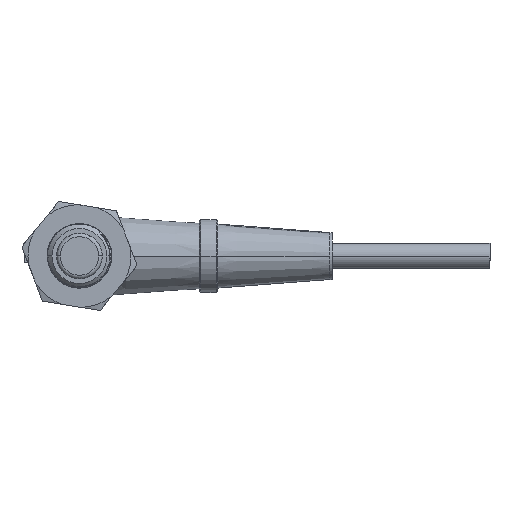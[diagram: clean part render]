
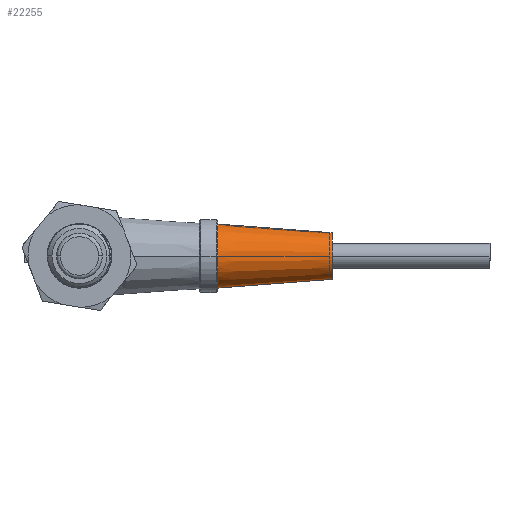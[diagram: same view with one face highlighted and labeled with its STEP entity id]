
A CAD part, left-side view. The second image highlights one B-rep face of the part: STEP entity #22255.
In plain terms, the highlighted conical face has half-angle 4.346 degrees and reference radius 5.1 mm.
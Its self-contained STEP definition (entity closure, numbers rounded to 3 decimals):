
#500 = CARTESIAN_POINT ( 'NONE',  ( 43.608, 2.288, 39.218 ) ) ;
#4586 = CARTESIAN_POINT ( 'NONE',  ( 43.608, 2.288, 25.218 ) ) ;
#4834 = EDGE_CURVE ( 'NONE', #56449, #56506, #32106, .T. ) ;
#10482 = CARTESIAN_POINT ( 'NONE',  ( 43.608, 2.288, 32.218 ) ) ;
#10896 = VERTEX_POINT ( 'NONE', #18219 ) ;
#12249 = DIRECTION ( 'NONE',  ( 0., 0.997, 0.076 ) ) ;
#13843 = CIRCLE ( 'NONE', #24962, 5.1 ) ;
#14749 = CARTESIAN_POINT ( 'NONE',  ( 43.608, -22.712, 27.118 ) ) ;
#15970 = DIRECTION ( 'NONE',  ( 0., 0., 1. ) ) ;
#16308 = VECTOR ( 'NONE', #12249, 1000. ) ;
#17436 = FACE_OUTER_BOUND ( 'NONE', #66108, .T. ) ;
#18219 = CARTESIAN_POINT ( 'NONE',  ( 43.608, -22.712, 37.318 ) ) ;
#20222 = EDGE_CURVE ( 'NONE', #10896, #53215, #44376, .T. ) ;
#21162 = ORIENTED_EDGE ( 'NONE', *, *, #4834, .F. ) ;
#22255 = ADVANCED_FACE ( 'NONE', ( #17436 ), #24881, .T. ) ;
#22856 = CARTESIAN_POINT ( 'NONE',  ( 43.608, -22.712, 27.118 ) ) ;
#24881 = CONICAL_SURFACE ( 'NONE', #68871, 5.1, 0.076 ) ;
#24962 = AXIS2_PLACEMENT_3D ( 'NONE', #29602, #66477, #34885 ) ;
#29602 = CARTESIAN_POINT ( 'NONE',  ( 43.608, -22.712, 32.218 ) ) ;
#32106 = LINE ( 'NONE', #22856, #44446 ) ;
#34885 = DIRECTION ( 'NONE',  ( 0., 0., 1. ) ) ;
#43778 = CARTESIAN_POINT ( 'NONE',  ( 43.608, -22.712, 37.318 ) ) ;
#44376 = LINE ( 'NONE', #43778, #16308 ) ;
#44446 = VECTOR ( 'NONE', #65009, 1000. ) ;
#44588 = EDGE_CURVE ( 'NONE', #56449, #10896, #13843, .T. ) ;
#47624 = DIRECTION ( 'NONE',  ( 0., 1., 0. ) ) ;
#48612 = ORIENTED_EDGE ( 'NONE', *, *, #52414, .F. ) ;
#52063 = DIRECTION ( 'NONE',  ( 0., 0., 1. ) ) ;
#52414 = EDGE_CURVE ( 'NONE', #56506, #53215, #66441, .T. ) ;
#53215 = VERTEX_POINT ( 'NONE', #500 ) ;
#53488 = ORIENTED_EDGE ( 'NONE', *, *, #20222, .T. ) ;
#56449 = VERTEX_POINT ( 'NONE', #14749 ) ;
#56506 = VERTEX_POINT ( 'NONE', #4586 ) ;
#57149 = CARTESIAN_POINT ( 'NONE',  ( 43.608, -22.712, 32.218 ) ) ;
#60513 = AXIS2_PLACEMENT_3D ( 'NONE', #10482, #47624, #15970 ) ;
#62242 = DIRECTION ( 'NONE',  ( 0., 1., 0. ) ) ;
#65009 = DIRECTION ( 'NONE',  ( 0., 0.997, -0.076 ) ) ;
#65908 = ORIENTED_EDGE ( 'NONE', *, *, #44588, .T. ) ;
#66108 = EDGE_LOOP ( 'NONE', ( #21162, #65908, #53488, #48612 ) ) ;
#66441 = CIRCLE ( 'NONE', #60513, 7. ) ;
#66477 = DIRECTION ( 'NONE',  ( 0., 1., 0. ) ) ;
#68871 = AXIS2_PLACEMENT_3D ( 'NONE', #57149, #62242, #52063 ) ;
